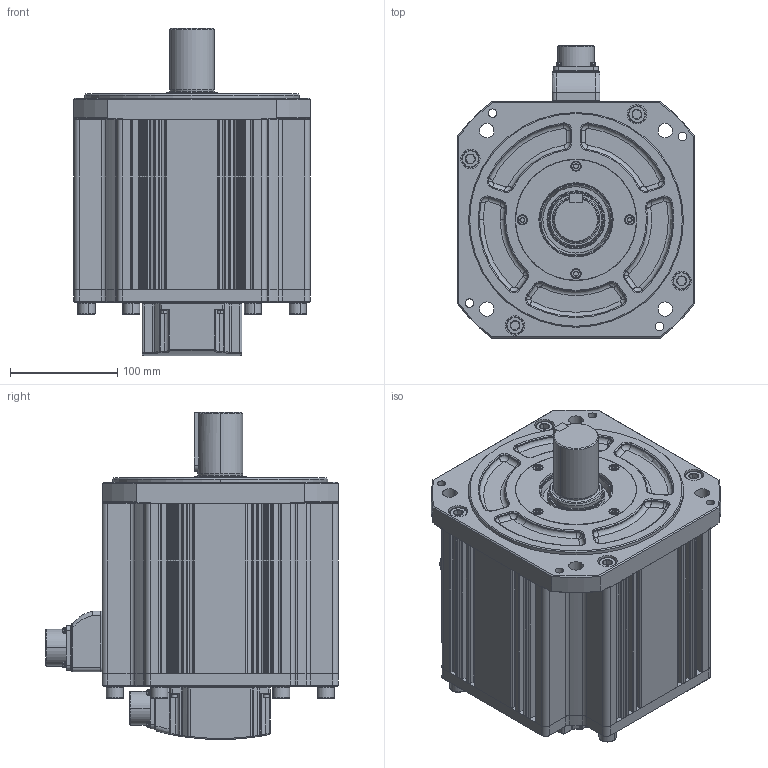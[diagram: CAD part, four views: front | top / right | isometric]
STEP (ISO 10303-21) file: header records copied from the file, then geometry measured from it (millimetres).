
FILE_DESCRIPTION (( 'STEP AP214' ), '1' );
FILE_NAME ('FM22GA005-1G04_Out Line(APM-FG75D_K1,FG60G_K1,FG44M_K1).STEP', '2019-07-11T01:23:04', ( '' ), ( '' ), 'SwSTEP 2.0', 'SolidWorks 2011', '' );
FILE_SCHEMA (( 'AUTOMOTIVE_DESIGN' ));
Length unit declared in the file: millimetre
Products named in the file (1): FM22GA005-1G04_Out Line(APM-FG75D_K1,FG60G_K1,FG44M_K1)
Bounding box: 220 x 272.5 x 304.5 mm (x, y, z)
Volume: 8523704.6 mm3; surface area: 665067.8 mm2
Topology: 59 solids, 59 shells, 2148 faces, 5341 edges, 3379 vertices
Faces by surface type: cylinder 844, plane 721, cone 279, torus 159, bspline 145
Entity records: 96623 total; most frequent: CARTESIAN_POINT 20824, DIRECTION 11103, ORIENTED_EDGE 10542, EDGE_CURVE 5271, AXIS2_PLACEMENT_3D 4304, VERTEX_POINT 3379, VECTOR 2495, LINE 2495
